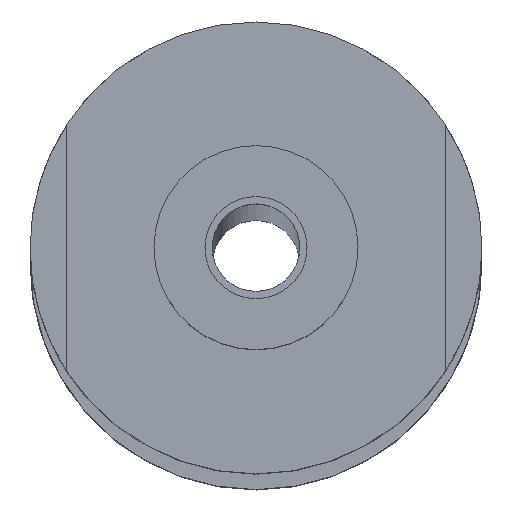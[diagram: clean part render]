
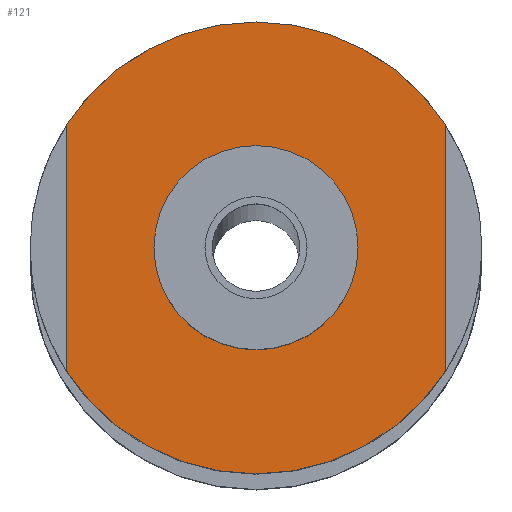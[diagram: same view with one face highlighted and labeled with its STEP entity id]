
A CAD part, top view. The second image highlights one B-rep face of the part: STEP entity #121.
In plain terms, the highlighted planar face has unit normal (0, 0, 1).
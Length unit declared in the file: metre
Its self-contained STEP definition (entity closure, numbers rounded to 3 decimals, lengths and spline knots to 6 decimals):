
#121=ADVANCED_FACE('37:1511',(#238,#239),#240,.T.);
#238=FACE_OUTER_BOUND('',#364,.T.);
#239=FACE_BOUND('',#365,.T.);
#240=PLANE('',#366);
#364=EDGE_LOOP('',(#596,#597,#598,#599,#600,#601));
#365=EDGE_LOOP('',(#602,#603));
#366=AXIS2_PLACEMENT_3D('',#604,#605,#606);
#596=ORIENTED_EDGE('',*,*,#761,.F.);
#597=ORIENTED_EDGE('',*,*,#760,.F.);
#598=ORIENTED_EDGE('',*,*,#756,.F.);
#599=ORIENTED_EDGE('',*,*,#688,.F.);
#600=ORIENTED_EDGE('',*,*,#687,.F.);
#601=ORIENTED_EDGE('',*,*,#751,.T.);
#602=ORIENTED_EDGE('',*,*,#749,.F.);
#603=ORIENTED_EDGE('',*,*,#693,.F.);
#604=CARTESIAN_POINT('',(0.0,0.0,2.995));
#605=DIRECTION('',(0.0,0.0,1.0));
#606=DIRECTION('',(1.0,0.0,0.0));
#687=EDGE_CURVE('37:1561',#812,#814,#815,.F.);
#688=EDGE_CURVE('37:1552',#814,#816,#817,.F.);
#693=EDGE_CURVE('',#822,#825,#826,.T.);
#749=EDGE_CURVE('37:1539',#825,#822,#907,.T.);
#751=EDGE_CURVE('37:3142',#812,#909,#910,.T.);
#756=EDGE_CURVE('37:2641',#816,#917,#918,.F.);
#760=EDGE_CURVE('37:1558',#917,#922,#923,.F.);
#761=EDGE_CURVE('37:1549',#922,#909,#924,.F.);
#812=VERTEX_POINT('',#1001);
#814=VERTEX_POINT('',#1004);
#815=CIRCLE('',#1005,0.0155);
#816=VERTEX_POINT('',#1006);
#817=CIRCLE('',#1007,0.0155);
#822=VERTEX_POINT('',#1013);
#825=VERTEX_POINT('',#1017);
#826=CIRCLE('',#1018,0.007);
#907=CIRCLE('',#1116,0.007);
#909=VERTEX_POINT('',#1118);
#910=LINE('',#1119,#1120);
#917=VERTEX_POINT('',#1130);
#918=LINE('',#1131,#1132);
#922=VERTEX_POINT('',#1137);
#923=CIRCLE('',#1138,0.0155);
#924=CIRCLE('',#1139,0.0155);
#1001=CARTESIAN_POINT('',(-0.013092,0.008536,2.995));
#1004=CARTESIAN_POINT('',(-0.000092,0.015595,2.995));
#1005=AXIS2_PLACEMENT_3D('',#1221,#1222,#1223);
#1006=CARTESIAN_POINT('',(0.012908,0.008536,2.995));
#1007=AXIS2_PLACEMENT_3D('',#1224,#1225,#1226);
#1013=CARTESIAN_POINT('',(0.006908,0.000095,2.995));
#1017=CARTESIAN_POINT('',(-0.007092,0.000095,2.995));
#1018=AXIS2_PLACEMENT_3D('',#1232,#1233,#1234);
#1116=AXIS2_PLACEMENT_3D('',#1318,#1319,#1320);
#1118=CARTESIAN_POINT('',(-0.013092,-0.008346,2.995));
#1119=CARTESIAN_POINT('',(-0.013092,0.000048,2.995));
#1120=VECTOR('',#1321,1.0);
#1130=CARTESIAN_POINT('',(0.012908,-0.008346,2.995));
#1131=CARTESIAN_POINT('',(0.012908,0.000048,2.995));
#1132=VECTOR('',#1325,1.0);
#1137=CARTESIAN_POINT('',(-0.000092,-0.015405,2.995));
#1138=AXIS2_PLACEMENT_3D('',#1330,#1331,#1332);
#1139=AXIS2_PLACEMENT_3D('',#1333,#1334,#1335);
#1221=CARTESIAN_POINT('',(-0.000092,0.000095,2.995));
#1222=DIRECTION('',(0.0,0.0,1.0));
#1223=DIRECTION('',(1.0,0.0,0.0));
#1224=CARTESIAN_POINT('',(-0.000092,0.000095,2.995));
#1225=DIRECTION('',(0.0,0.0,1.0));
#1226=DIRECTION('',(1.0,0.0,0.0));
#1232=CARTESIAN_POINT('',(-0.000092,0.000095,2.995));
#1233=DIRECTION('',(0.0,0.0,1.0));
#1234=DIRECTION('',(1.0,0.0,-0.0));
#1318=CARTESIAN_POINT('',(-0.000092,0.000095,2.995));
#1319=DIRECTION('',(0.0,0.0,1.0));
#1320=DIRECTION('',(1.0,0.0,-0.0));
#1321=DIRECTION('',(0.,-1.0,0.0));
#1325=DIRECTION('',(0.,1.0,0.0));
#1330=CARTESIAN_POINT('',(-0.000092,0.000095,2.995));
#1331=DIRECTION('',(0.0,0.0,1.0));
#1332=DIRECTION('',(1.0,0.0,0.0));
#1333=CARTESIAN_POINT('',(-0.000092,0.000095,2.995));
#1334=DIRECTION('',(0.0,0.0,1.0));
#1335=DIRECTION('',(1.0,0.0,0.0));
